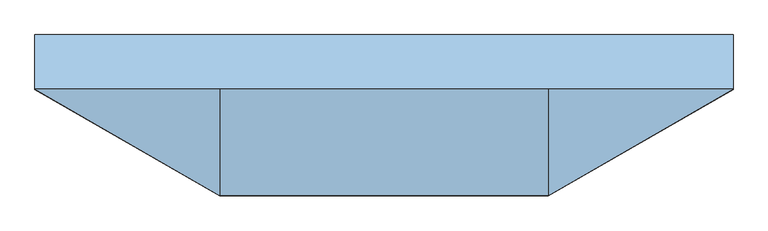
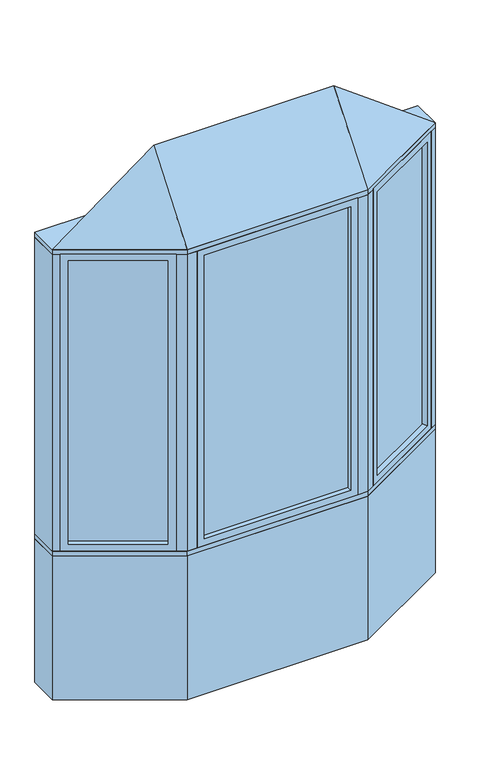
"""IFC4 building model written with IfcOpenShell, lengths in millimetres: window geometry, Pollard_Windows_Tudor Casement Bows and Bays : AML-BAY 30 AFR0616-08-500."""

from ifc_helpers import new_model, si_unit, frame, origin, origin_with_axes, place, context, project, spatial, polyline, outline, extrude, faceted_brep, source, transform, mapped, element, save


def window_ce77d617(model_context):
    return source(origin(), model_context, "Body", "SolidModel", [
        extrude(outline(polyline([(913.112102, -82.0482469), (510.2320119, -314.6511754), (507.6920119, -310.2517664), (910.572102, -77.6488379), (913.112102, -82.0482469)])), frame((0.0, 0.0, 823.1628), z_axis=(0.0, 0.0, 1.0), x_axis=(1.0, 0.0, 0.0)), (0.0, 0.0, 1.0), 1553.6704),
        faceted_brep([(902.1135794, -88.3982469, 835.8628), (914.8135794, -110.3952922, 835.8628), (914.8135794, -110.3952922, 2364.1332), (902.1135794, -88.3982469, 2364.1332), (910.572102, -77.6488379, 823.1628), (913.112102, -82.0482469, 823.1628), (913.112102, -82.0482469, 2376.8332), (910.572102, -77.6488379, 2376.8332), (886.8735794, -62.0017926, 835.8628), (899.5735794, -83.9988379, 835.8628), (899.5735794, -83.9988379, 2364.1332), (886.8735794, -62.0017926, 2364.1332), (945.8734073, -92.4628922, 799.998), (917.9334073, -44.0693926, 799.998), (917.9334073, -44.0693926, 2399.998), (945.8734073, -92.4628922, 2399.998), (533.9305346, -330.2982207, 2364.1332), (521.2305346, -308.3011754, 2364.1332), (510.2320119, -314.6511754, 2376.8332), (507.6920119, -310.2517664, 2376.8332), (518.6905346, -303.9017664, 2364.1332), (505.9905346, -281.9047211, 2364.1332), (474.9307067, -299.8371211, 2399.998), (502.8707067, -348.2306207, 2399.998), (533.9305346, -330.2982207, 835.8628), (521.2305346, -308.3011754, 835.8628), (510.2320119, -314.6511754, 823.1628), (507.6920119, -310.2517664, 823.1628), (518.6905346, -303.9017664, 835.8628), (505.9905346, -281.9047211, 835.8628), (474.9307067, -299.8371211, 799.998), (502.8707067, -348.2306207, 799.998)], [[[0, 1, 2, 3]], [[4, 5, 6, 7]], [[8, 9, 10, 11]], [[12, 13, 14, 15]], [[3, 2, 16, 17]], [[7, 6, 18, 19]], [[11, 10, 20, 21]], [[15, 14, 22, 23]], [[17, 16, 24, 25]], [[19, 18, 26, 27]], [[21, 20, 28, 29]], [[23, 22, 30, 31]], [[25, 24, 1, 0]], [[5, 26, 18, 6], [3, 17, 25, 0]], [[27, 26, 5, 4]], [[7, 19, 27, 4], [9, 28, 20, 10]], [[29, 28, 9, 8]], [[13, 30, 22, 14], [11, 21, 29, 8]], [[31, 30, 13, 12]], [[15, 23, 31, 12], [1, 24, 16, 2]]]),
        extrude(outline(polyline([(-510.2320119, -314.6511754), (-913.112102, -82.0482469), (-910.572102, -77.6488379), (-507.6920119, -310.2517664), (-510.2320119, -314.6511754)])), frame((0.0, 0.0, 823.1628), z_axis=(0.0, 0.0, 1.0), x_axis=(1.0, 0.0, 0.0)), (0.0, 0.0, 1.0), 1553.6704),
        faceted_brep([(-518.6905346, -303.9017664, 2364.1332), (-505.9905346, -281.9047211, 2364.1332), (-505.9905346, -281.9047211, 835.8628), (-518.6905346, -303.9017664, 835.8628), (-510.2320119, -314.6511754, 2376.8332), (-507.6920119, -310.2517664, 2376.8332), (-507.6920119, -310.2517664, 823.1628), (-510.2320119, -314.6511754, 823.1628), (-533.9305346, -330.2982207, 2364.1332), (-521.2305346, -308.3011754, 2364.1332), (-521.2305346, -308.3011754, 835.8628), (-533.9305346, -330.2982207, 835.8628), (-474.9307067, -299.8371211, 2399.998), (-502.8707067, -348.2306207, 2399.998), (-502.8707067, -348.2306207, 799.998), (-474.9307067, -299.8371211, 799.998), (-886.8735794, -62.0017926, 835.8628), (-899.5735794, -83.9988379, 835.8628), (-910.572102, -77.6488379, 823.1628), (-913.112102, -82.0482469, 823.1628), (-902.1135794, -88.3982469, 835.8628), (-914.8135794, -110.3952922, 835.8628), (-945.8734073, -92.4628922, 799.998), (-917.9334073, -44.0693926, 799.998), (-886.8735794, -62.0017926, 2364.1332), (-899.5735794, -83.9988379, 2364.1332), (-910.572102, -77.6488379, 2376.8332), (-913.112102, -82.0482469, 2376.8332), (-902.1135794, -88.3982469, 2364.1332), (-914.8135794, -110.3952922, 2364.1332), (-945.8734073, -92.4628922, 2399.998), (-917.9334073, -44.0693926, 2399.998)], [[[0, 1, 2, 3]], [[4, 5, 6, 7]], [[8, 9, 10, 11]], [[12, 13, 14, 15]], [[3, 2, 16, 17]], [[7, 6, 18, 19]], [[11, 10, 20, 21]], [[15, 14, 22, 23]], [[17, 16, 24, 25]], [[19, 18, 26, 27]], [[21, 20, 28, 29]], [[23, 22, 30, 31]], [[15, 23, 31, 12], [1, 24, 16, 2]], [[25, 24, 1, 0]], [[5, 26, 18, 6], [3, 17, 25, 0]], [[27, 26, 5, 4]], [[7, 19, 27, 4], [9, 28, 20, 10]], [[29, 28, 9, 8]], [[13, 30, 22, 14], [11, 21, 29, 8]], [[31, 30, 13, 12]]]),
        extrude(outline(polyline([(386.4046365, -347.8306207), (-386.4046365, -347.8306207), (-386.4046365, -342.7506207), (386.4046365, -342.7506207), (386.4046365, -347.8306207)])), frame((0.0, 0.0, 823.1628), z_axis=(0.0, 0.0, 1.0), x_axis=(1.0, 0.0, 0.0)), (0.0, 0.0, 1.0), 1553.6704),
        faceted_brep([(373.7046365, -347.8306207, 835.8628), (373.7046365, -373.2306207, 835.8628), (373.7046365, -373.2306207, 2364.1332), (373.7046365, -347.8306207, 2364.1332), (386.4046365, -342.7506207, 823.1628), (386.4046365, -347.8306207, 823.1628), (386.4046365, -347.8306207, 2376.8332), (386.4046365, -342.7506207, 2376.8332), (373.7046365, -317.3506207, 835.8628), (373.7046365, -342.7506207, 835.8628), (373.7046365, -342.7506207, 2364.1332), (373.7046365, -317.3506207, 2364.1332), (409.5694365, -373.2306207, 799.998), (409.5694365, -317.3506207, 799.998), (409.5694365, -317.3506207, 2399.998), (409.5694365, -373.2306207, 2399.998), (-373.7046365, -373.2306207, 2364.1332), (-373.7046365, -347.8306207, 2364.1332), (-386.4046365, -347.8306207, 2376.8332), (-386.4046365, -342.7506207, 2376.8332), (-373.7046365, -342.7506207, 2364.1332), (-373.7046365, -317.3506207, 2364.1332), (-409.5694365, -317.3506207, 2399.998), (-409.5694365, -373.2306207, 2399.998), (-373.7046365, -373.2306207, 835.8628), (-373.7046365, -347.8306207, 835.8628), (-386.4046365, -347.8306207, 823.1628), (-386.4046365, -342.7506207, 823.1628), (-373.7046365, -342.7506207, 835.8628), (-373.7046365, -317.3506207, 835.8628), (-409.5694365, -317.3506207, 799.998), (-409.5694365, -373.2306207, 799.998)], [[[0, 1, 2, 3]], [[4, 5, 6, 7]], [[8, 9, 10, 11]], [[12, 13, 14, 15]], [[3, 2, 16, 17]], [[7, 6, 18, 19]], [[11, 10, 20, 21]], [[15, 14, 22, 23]], [[17, 16, 24, 25]], [[19, 18, 26, 27]], [[21, 20, 28, 29]], [[23, 22, 30, 31]], [[15, 23, 31, 12], [1, 24, 16, 2]], [[25, 24, 1, 0]], [[5, 26, 18, 6], [3, 17, 25, 0]], [[27, 26, 5, 4]], [[7, 19, 27, 4], [9, 28, 20, 10]], [[29, 28, 9, 8]], [[13, 30, 22, 14], [11, 21, 29, 8]], [[31, 30, 13, 12]]]),
        faceted_brep([(976.5, -74.7806207, 2425.398), (459.5694365, -373.2306207, 2425.398), (-459.5694365, -373.2306207, 2425.398), (-976.5, -74.7806207, 2425.398), (-459.5694365, -74.7806207, 2806.398), (459.5694365, -74.7806207, 2806.398)], [[[0, 1, 2, 3]], [[3, 2, 4]], [[2, 1, 5, 4]], [[1, 0, 5]], [[0, 3, 4, 5]]]),
        extrude(outline(polyline([(-976.5, 77.6193793), (976.5, 77.6193793), (976.5, -74.7806207), (459.5694365, -373.2306207), (-459.5694365, -373.2306207), (-976.5, -74.7806207), (-976.5, 77.6193793)])), frame((0.0, 0.0, 2399.998), z_axis=(0.0, 0.0, 1.0), x_axis=(1.0, 0.0, 0.0)), (0.0, 0.0, 1.0), 25.4),
        extrude(outline(polyline([(-976.5, -74.7806207), (-976.5, 77.6193793), (-935.6645431, 77.6193793), (-935.6645431, -74.7806207), (-945.8734073, -92.4628922), (-976.5, -74.7806207)])), frame((0.0, 0.0, 799.998), z_axis=(0.0, 0.0, 1.0), x_axis=(1.0, 0.0, 0.0)), (0.0, 0.0, 1.0), 1600.0),
        extrude(outline(polyline([(976.5, 77.6193793), (976.5, -74.7806207), (945.8734073, -92.4628922), (935.6645431, -74.7806207), (935.6645431, 77.6193793), (976.5, 77.6193793)])), frame((0.0, 0.0, 799.998), z_axis=(0.0, 0.0, 1.0), x_axis=(1.0, 0.0, 0.0)), (0.0, 0.0, 1.0), 1600.0),
        extrude(outline(polyline([(459.5694365, -373.2306207), (409.5694365, -373.2306207), (409.5694365, -323.2306207), (446.1719769, -323.2306207), (477.8707067, -304.9293505), (502.8707067, -348.2306207), (459.5694365, -373.2306207)])), frame((0.0, 0.0, 799.998), z_axis=(0.0, 0.0, 1.0), x_axis=(1.0, 0.0, 0.0)), (0.0, 0.0, 1.0), 1600.0),
        extrude(outline(polyline([(-459.5694365, -373.2306207), (-502.8707067, -348.2306207), (-477.8707067, -304.9293505), (-446.1719769, -323.2306207), (-409.5694365, -323.2306207), (-409.5694365, -373.2306207), (-459.5694365, -373.2306207)])), frame((0.0, 0.0, 799.998), z_axis=(0.0, 0.0, 1.0), x_axis=(1.0, 0.0, 0.0)), (0.0, 0.0, 1.0), 1600.0),
        extrude(outline(polyline([(-459.5694365, -373.2306207), (-976.5, -74.7806207), (-976.5, 77.6193793), (-935.6645431, 77.6193793), (-418.7339796, -220.8306207), (418.7339796, -220.8306207), (935.6645431, 77.6193793), (976.5, 77.6193793), (976.5, -74.7806207), (459.5694365, -373.2306207), (-459.5694365, -373.2306207)])), frame((0.0, 0.0, 774.598), z_axis=(0.0, 0.0, 1.0), x_axis=(1.0, 0.0, 0.0)), (0.0, 0.0, 1.0), 25.4),
        extrude(outline(polyline([(-976.5, -74.7806207), (-976.5, 77.6193793), (-935.6645431, 77.6193793), (-418.7339796, -220.8306207), (418.7339796, -220.8306207), (935.6645431, 77.6193793), (976.5, 77.6193793), (976.5, -74.7806207), (459.5694365, -373.2306207), (-459.5694365, -373.2306207), (-976.5, -74.7806207)])), origin_with_axes(), (0.0, 0.0, 1.0), 774.598),
    ])


if __name__ == "__main__":
    model = new_model("IFC4")
    model_context = context("Model", 3, world=origin())
    ifc_project = project(units=[si_unit("LENGTHUNIT", "METRE", prefix="MILLI")], contexts=[model_context])
    site = spatial("IfcSite", under=ifc_project)
    building = spatial("IfcBuilding", under=site)
    placement = place(None, origin())
    window_shape = window_ce77d617(model_context)
    element("IfcWindow", 1, ObjectType="Pollard_Windows_Tudor Casement Bows and Bays : AML-BAY 30 AFR0616-08-500", at=placement, inside=building, context=model_context, shape_type="MappedRepresentation", body=[
        mapped(window_shape, transform((0.0, 0.0, 0.0), x_axis=(1.0, 0.0, 0.0), y_axis=(0.0, 1.0, 0.0), z_axis=(0.0, 0.0, 1.0))),
    ])
    save(model, "model.ifc")
